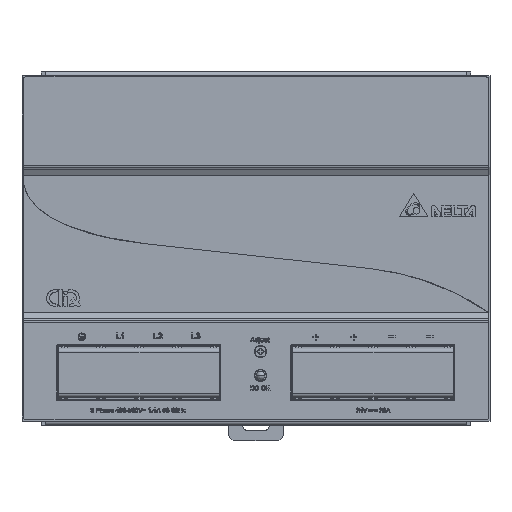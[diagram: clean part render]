
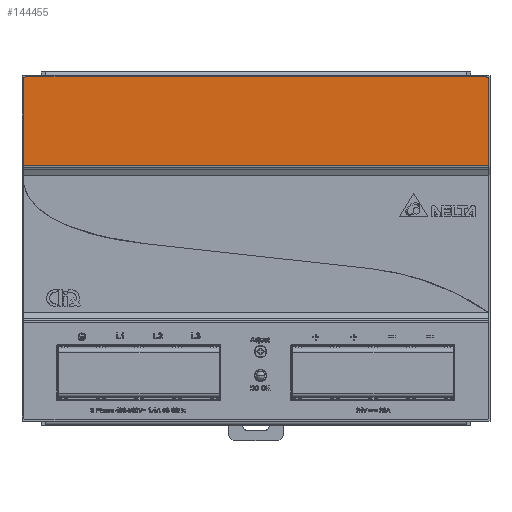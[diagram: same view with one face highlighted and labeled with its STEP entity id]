
A CAD part, top view. The second image highlights one B-rep face of the part: STEP entity #144455.
In plain terms, the highlighted planar face has unit normal (0, 0, 1).
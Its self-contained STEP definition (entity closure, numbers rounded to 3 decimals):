
#123827=DIRECTION('',(0.,-1.,0.));
#123828=VECTOR('',#123827,29.263);
#123829=CARTESIAN_POINT('',(0.,116.2,0.175));
#123830=LINE('',#123829,#123828);
#123950=CARTESIAN_POINT('',(158.2,116.2,0.175));
#123951=DIRECTION('',(0.,0.,1.));
#123952=DIRECTION('',(1.,0.,0.));
#123953=AXIS2_PLACEMENT_3D('',#123950,#123951,#123952);
#123958=DIRECTION('',(-1.,0.,0.));
#123959=VECTOR('',#123958,159.2);
#123960=CARTESIAN_POINT('',(159.2,86.937,0.175));
#123961=LINE('',#123960,#123959);
#123965=CARTESIAN_POINT('',(1.,116.2,0.175));
#123966=DIRECTION('',(0.,0.,1.));
#123967=DIRECTION('',(0.,1.,0.));
#123968=AXIS2_PLACEMENT_3D('',#123965,#123966,#123967);
#123973=DIRECTION('',(1.,0.,0.));
#123974=VECTOR('',#123973,157.2);
#123975=CARTESIAN_POINT('',(1.,117.2,0.175));
#123976=LINE('',#123975,#123974);
#124073=DIRECTION('',(0.,-1.,0.));
#124074=VECTOR('',#124073,29.263);
#124075=CARTESIAN_POINT('',(159.2,116.2,0.175));
#124076=LINE('',#124075,#124074);
#142000=CARTESIAN_POINT('',(0.,86.937,0.175));
#142002=VERTEX_POINT('',#142000);
#142003=CARTESIAN_POINT('',(159.2,86.937,0.175));
#142004=VERTEX_POINT('',#142003);
#142007=CARTESIAN_POINT('',(159.2,116.2,0.175));
#142008=CARTESIAN_POINT('',(158.2,117.2,0.175));
#142009=VERTEX_POINT('',#142007);
#142010=VERTEX_POINT('',#142008);
#142019=CARTESIAN_POINT('',(1.,117.2,0.175));
#142020=VERTEX_POINT('',#142019);
#142021=CARTESIAN_POINT('',(0.,116.2,0.175));
#142022=VERTEX_POINT('',#142021);
#144439=CARTESIAN_POINT('',(0.,117.2,0.175));
#144440=DIRECTION('',(0.,0.,1.));
#144441=DIRECTION('',(0.,-1.,0.));
#144442=AXIS2_PLACEMENT_3D('',#144439,#144440,#144441);
#144443=PLANE('',#144442);
#144444=ORIENTED_EDGE('',*,*,#144429,.F.);
#144446=ORIENTED_EDGE('',*,*,#144445,.T.);
#144448=ORIENTED_EDGE('',*,*,#144447,.T.);
#144449=ORIENTED_EDGE('',*,*,#144358,.F.);
#144450=ORIENTED_EDGE('',*,*,#144400,.F.);
#144452=ORIENTED_EDGE('',*,*,#144451,.T.);
#144453=EDGE_LOOP('',(#144444,#144446,#144448,#144449,#144450,#144452));
#144454=FACE_OUTER_BOUND('',#144453,.F.);
#123954=CIRCLE('',#123953,1.);
#123969=CIRCLE('',#123968,1.);
#144358=EDGE_CURVE('',#142022,#142002,#123830,.T.);
#144400=EDGE_CURVE('',#142020,#142022,#123969,.T.);
#144429=EDGE_CURVE('',#142009,#142010,#123954,.T.);
#144445=EDGE_CURVE('',#142009,#142004,#124076,.T.);
#144447=EDGE_CURVE('',#142004,#142002,#123961,.T.);
#144451=EDGE_CURVE('',#142020,#142010,#123976,.T.);
#144455=ADVANCED_FACE('',(#144454),#144443,.T.);
